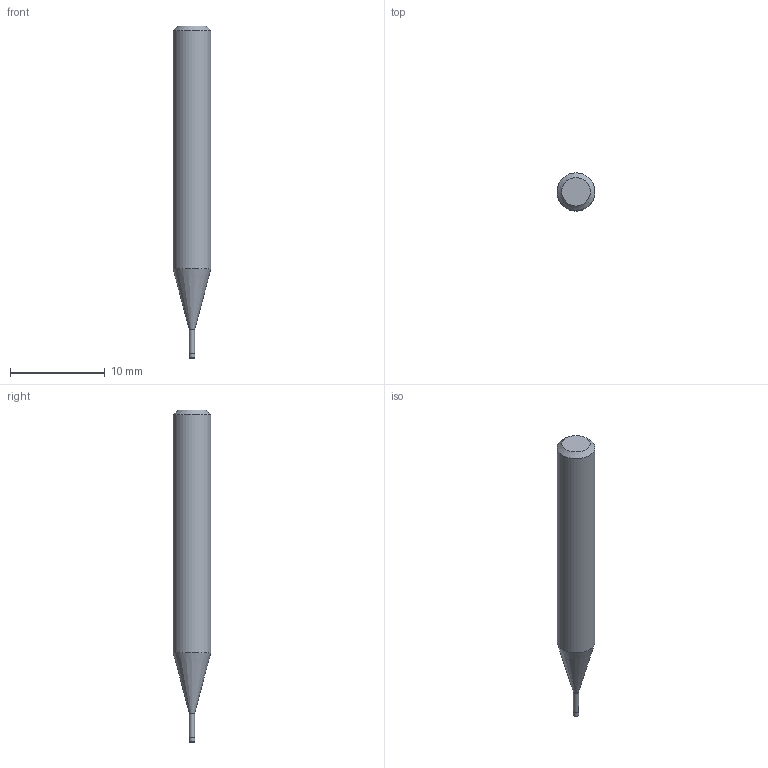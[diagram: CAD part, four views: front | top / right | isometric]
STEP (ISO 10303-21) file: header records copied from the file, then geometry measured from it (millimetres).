
FILE_DESCRIPTION((''),'2;1');
FILE_NAME('C:\Users\nsx150\AppData\Local\Temp\Mastercam 2021\80JYEHYUML\TEMP.step','2022-03-29T14:35:29',(''),(''),'STEP Write','Mastercam 2021 ... CNC Software, Inc.','');
FILE_SCHEMA(('AUTOMOTIVE_DESIGN'));
Length unit declared in the file: millimetre
Products named in the file (1): None
Bounding box: 4 x 4 x 35 mm (x, y, z)
Volume: 352 mm3; surface area: 383.8 mm2
Topology: 2 solids, 2 shells, 10 faces, 14 edges, 8 vertices
Faces by surface type: plane 4, cylinder 3, cone 2, torus 1
Full cylindrical faces by diameter (mm): 0.56 x1, 0.6 x1, 4 x1
Entity records: 232 total; most frequent: DIRECTION 40, CARTESIAN_POINT 28, AXIS2_PLACEMENT_3D 20, ORIENTED_EDGE 16, EDGE_LOOP 16, STYLED_ITEM 13, ADVANCED_FACE 10, FACE_BOUND 10
